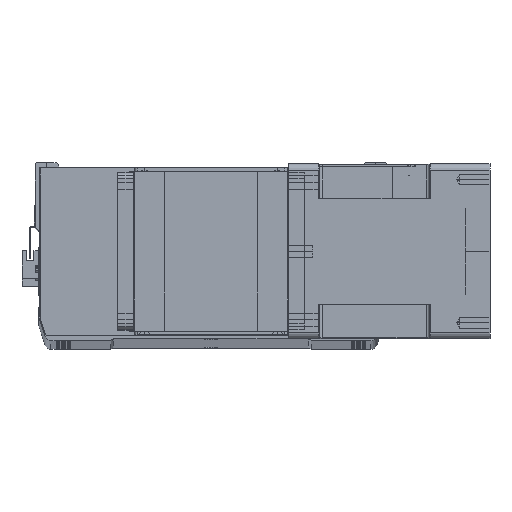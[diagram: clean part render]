
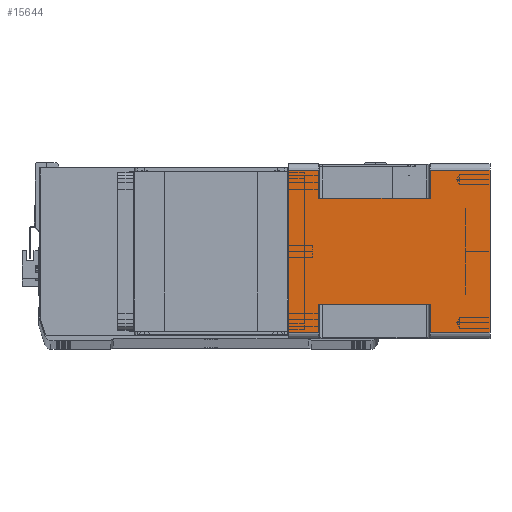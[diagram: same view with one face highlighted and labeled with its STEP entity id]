
A CAD part, top view. The second image highlights one B-rep face of the part: STEP entity #15644.
In plain terms, the highlighted planar face has unit normal (0, 0, 1) as drawn and (1, 0, 0) by its records, which use the part's own axes.
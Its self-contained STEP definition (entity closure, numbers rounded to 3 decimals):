
#612 = VERTEX_POINT ( 'NONE', #12221 ) ;
#1713 = EDGE_CURVE ( 'NONE', #29059, #28154, #10084, .T. ) ;
#1868 = VECTOR ( 'NONE', #3222, 1000. ) ;
#2017 = EDGE_CURVE ( 'NONE', #612, #28154, #32705, .T. ) ;
#2203 = AXIS2_PLACEMENT_3D ( 'NONE', #8510, #6224, #14312 ) ;
#2344 = CARTESIAN_POINT ( 'NONE',  ( 71., -66., -24.5 ) ) ;
#3222 = DIRECTION ( 'NONE',  ( 0., 1., 0. ) ) ;
#3612 = ORIENTED_EDGE ( 'NONE', *, *, #9649, .T. ) ;
#3669 = EDGE_CURVE ( 'NONE', #29684, #5872, #28476, .T. ) ;
#3847 = CARTESIAN_POINT ( 'NONE',  ( 71., -43., -164. ) ) ;
#4519 = ORIENTED_EDGE ( 'NONE', *, *, #9745, .T. ) ;
#5370 = ORIENTED_EDGE ( 'NONE', *, *, #2017, .F. ) ;
#5468 = ORIENTED_EDGE ( 'NONE', *, *, #22320, .F. ) ;
#5617 = LINE ( 'NONE', #17175, #25064 ) ;
#5872 = VERTEX_POINT ( 'NONE', #16593 ) ;
#6224 = DIRECTION ( 'NONE',  ( 1., 0., 0. ) ) ;
#7011 = ORIENTED_EDGE ( 'NONE', *, *, #7215, .T. ) ;
#7215 = EDGE_CURVE ( 'NONE', #14197, #5872, #35384, .T. ) ;
#7557 = VECTOR ( 'NONE', #25378, 1000. ) ;
#7821 = EDGE_LOOP ( 'NONE', ( #8088, #15382, #5468, #4519, #3612, #9271, #31900, #23988, #31684, #5370, #9982, #7011 ) ) ;
#8088 = ORIENTED_EDGE ( 'NONE', *, *, #3669, .F. ) ;
#8510 = CARTESIAN_POINT ( 'NONE',  ( 71., -66., -164. ) ) ;
#9119 = CARTESIAN_POINT ( 'NONE',  ( 71., 66., -115.5 ) ) ;
#9271 = ORIENTED_EDGE ( 'NONE', *, *, #36262, .T. ) ;
#9316 = VERTEX_POINT ( 'NONE', #31655 ) ;
#9325 = CARTESIAN_POINT ( 'NONE',  ( 71., -43., -24.5 ) ) ;
#9400 = LINE ( 'NONE', #36427, #31627 ) ;
#9606 = VERTEX_POINT ( 'NONE', #25334 ) ;
#9649 = EDGE_CURVE ( 'NONE', #9316, #21180, #29211, .T. ) ;
#9745 = EDGE_CURVE ( 'NONE', #11037, #9316, #14257, .T. ) ;
#9982 = ORIENTED_EDGE ( 'NONE', *, *, #21686, .F. ) ;
#10084 = LINE ( 'NONE', #18999, #21809 ) ;
#11037 = VERTEX_POINT ( 'NONE', #27609 ) ;
#11317 = CARTESIAN_POINT ( 'NONE',  ( 71., -66., -115.5 ) ) ;
#11820 = CARTESIAN_POINT ( 'NONE',  ( 71., -66., 0. ) ) ;
#12221 = CARTESIAN_POINT ( 'NONE',  ( 71., -66., 0. ) ) ;
#13024 = EDGE_CURVE ( 'NONE', #29684, #29642, #15667, .T. ) ;
#13576 = CARTESIAN_POINT ( 'NONE',  ( 71., 66., -24.5 ) ) ;
#14197 = VERTEX_POINT ( 'NONE', #30855 ) ;
#14257 = LINE ( 'NONE', #37242, #35095 ) ;
#14312 = DIRECTION ( 'NONE',  ( 0., 1., 0. ) ) ;
#14559 = DIRECTION ( 'NONE',  ( 0., 1., 0. ) ) ;
#14672 = DIRECTION ( 'NONE',  ( 0., 0., 1. ) ) ;
#14875 = VERTEX_POINT ( 'NONE', #16663 ) ;
#15382 = ORIENTED_EDGE ( 'NONE', *, *, #13024, .T. ) ;
#15461 = LINE ( 'NONE', #2344, #24062 ) ;
#15644 = ADVANCED_FACE ( 'NONE', ( #22594 ), #35085, .T. ) ;
#15667 = LINE ( 'NONE', #34131, #7557 ) ;
#16593 = CARTESIAN_POINT ( 'NONE',  ( 71., -43., -24.5 ) ) ;
#16663 = CARTESIAN_POINT ( 'NONE',  ( 71., 43., -24.5 ) ) ;
#16859 = DIRECTION ( 'NONE',  ( 0., 1., 0. ) ) ;
#17065 = DIRECTION ( 'NONE',  ( 0., 0., 1. ) ) ;
#17175 = CARTESIAN_POINT ( 'NONE',  ( 71., -66., -164. ) ) ;
#17186 = CARTESIAN_POINT ( 'NONE',  ( 71., 66., -164. ) ) ;
#17337 = CARTESIAN_POINT ( 'NONE',  ( 71., -43., -115.5 ) ) ;
#17509 = CARTESIAN_POINT ( 'NONE',  ( 71., -66., -164. ) ) ;
#18494 = VECTOR ( 'NONE', #32482, 1000. ) ;
#18999 = CARTESIAN_POINT ( 'NONE',  ( 71., 66., -164. ) ) ;
#19589 = EDGE_CURVE ( 'NONE', #14875, #29059, #15461, .T. ) ;
#19934 = VECTOR ( 'NONE', #23979, 1000. ) ;
#20436 = DIRECTION ( 'NONE',  ( 0., 0., 1. ) ) ;
#21180 = VERTEX_POINT ( 'NONE', #9119 ) ;
#21686 = EDGE_CURVE ( 'NONE', #14197, #612, #34272, .T. ) ;
#21809 = VECTOR ( 'NONE', #27786, 1000. ) ;
#22212 = LINE ( 'NONE', #29071, #34945 ) ;
#22320 = EDGE_CURVE ( 'NONE', #11037, #29642, #5617, .T. ) ;
#22594 = FACE_OUTER_BOUND ( 'NONE', #7821, .T. ) ;
#23479 = DIRECTION ( 'NONE',  ( 0., 0., -1. ) ) ;
#23979 = DIRECTION ( 'NONE',  ( 0., 1., 0. ) ) ;
#23988 = ORIENTED_EDGE ( 'NONE', *, *, #19589, .T. ) ;
#24062 = VECTOR ( 'NONE', #16859, 1000. ) ;
#25064 = VECTOR ( 'NONE', #14672, 1000. ) ;
#25334 = CARTESIAN_POINT ( 'NONE',  ( 71., 43., -115.5 ) ) ;
#25378 = DIRECTION ( 'NONE',  ( 0., -1., 0. ) ) ;
#26040 = VECTOR ( 'NONE', #17065, 1000. ) ;
#26545 = VECTOR ( 'NONE', #20436, 1000. ) ;
#27609 = CARTESIAN_POINT ( 'NONE',  ( 71., -66., -164. ) ) ;
#27786 = DIRECTION ( 'NONE',  ( 0., 0., 1. ) ) ;
#28154 = VERTEX_POINT ( 'NONE', #31815 ) ;
#28476 = LINE ( 'NONE', #3847, #18494 ) ;
#28748 = EDGE_CURVE ( 'NONE', #14875, #9606, #22212, .T. ) ;
#29059 = VERTEX_POINT ( 'NONE', #13576 ) ;
#29071 = CARTESIAN_POINT ( 'NONE',  ( 71., 43., -164. ) ) ;
#29211 = LINE ( 'NONE', #17186, #26040 ) ;
#29642 = VERTEX_POINT ( 'NONE', #11317 ) ;
#29684 = VERTEX_POINT ( 'NONE', #17337 ) ;
#30855 = CARTESIAN_POINT ( 'NONE',  ( 71., -66., -24.5 ) ) ;
#31627 = VECTOR ( 'NONE', #36679, 1000. ) ;
#31655 = CARTESIAN_POINT ( 'NONE',  ( 71., 66., -164. ) ) ;
#31684 = ORIENTED_EDGE ( 'NONE', *, *, #1713, .T. ) ;
#31815 = CARTESIAN_POINT ( 'NONE',  ( 71., 66., 0. ) ) ;
#31900 = ORIENTED_EDGE ( 'NONE', *, *, #28748, .F. ) ;
#32482 = DIRECTION ( 'NONE',  ( 0., 0., 1. ) ) ;
#32705 = LINE ( 'NONE', #11820, #1868 ) ;
#34131 = CARTESIAN_POINT ( 'NONE',  ( 71., -66., -115.5 ) ) ;
#34272 = LINE ( 'NONE', #17509, #26545 ) ;
#34945 = VECTOR ( 'NONE', #23479, 1000. ) ;
#35085 = PLANE ( 'NONE',  #2203 ) ;
#35095 = VECTOR ( 'NONE', #14559, 1000. ) ;
#35384 = LINE ( 'NONE', #9325, #19934 ) ;
#36262 = EDGE_CURVE ( 'NONE', #21180, #9606, #9400, .T. ) ;
#36427 = CARTESIAN_POINT ( 'NONE',  ( 71., 43., -115.5 ) ) ;
#36679 = DIRECTION ( 'NONE',  ( 0., -1., 0. ) ) ;
#37242 = CARTESIAN_POINT ( 'NONE',  ( 71., -66., -164. ) ) ;
